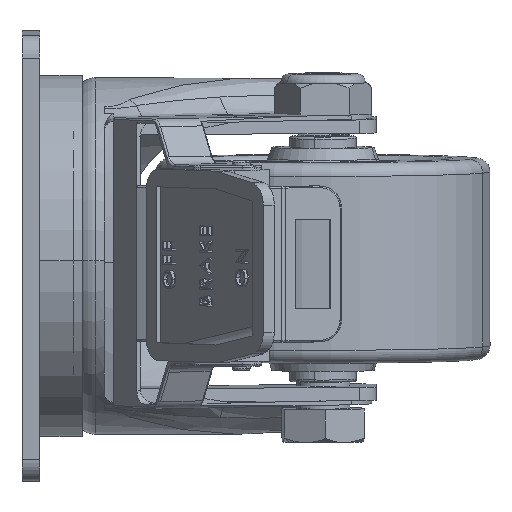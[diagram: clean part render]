
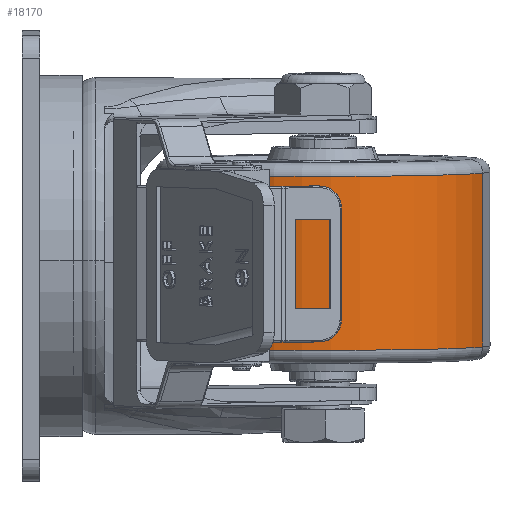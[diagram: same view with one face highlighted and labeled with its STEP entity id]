
A CAD part, left-side view. The second image highlights one B-rep face of the part: STEP entity #18170.
In plain terms, the highlighted cylindrical face has radius 37.5 mm (diameter 75 mm), a partial arc.
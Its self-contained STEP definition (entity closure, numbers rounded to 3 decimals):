
#1056 = CARTESIAN_POINT ( 'NONE',  ( 0., 19.5, 0. ) ) ;
#2727 = ORIENTED_EDGE ( 'NONE', *, *, #29543, .T. ) ;
#3796 = DIRECTION ( 'NONE',  ( 0., 0., -1. ) ) ;
#5359 = ORIENTED_EDGE ( 'NONE', *, *, #14769, .F. ) ;
#5555 = LINE ( 'NONE', #16527, #7661 ) ;
#6392 = VECTOR ( 'NONE', #27310, 1000. ) ;
#7661 = VECTOR ( 'NONE', #26841, 1000. ) ;
#12040 = VERTEX_POINT ( 'NONE', #19046 ) ;
#12487 = CYLINDRICAL_SURFACE ( 'NONE', #24746, 37.5 ) ;
#14769 = EDGE_CURVE ( 'NONE', #12040, #33325, #5555, .T. ) ;
#14953 = CARTESIAN_POINT ( 'NONE',  ( 0., 19.5, 37.5 ) ) ;
#15663 = VERTEX_POINT ( 'NONE', #14953 ) ;
#16140 = CARTESIAN_POINT ( 'NONE',  ( 0., -19.5, 37.5 ) ) ;
#16405 = CARTESIAN_POINT ( 'NONE',  ( 0., -19.5, -37.5 ) ) ;
#16527 = CARTESIAN_POINT ( 'NONE',  ( 0., 0., -37.5 ) ) ;
#17908 = CARTESIAN_POINT ( 'NONE',  ( 0., -19.5, 0. ) ) ;
#18170 = ADVANCED_FACE ( 'NONE', ( #25764 ), #12487, .T. ) ;
#18208 = EDGE_CURVE ( 'NONE', #18803, #33325, #31472, .T. ) ;
#18587 = DIRECTION ( 'NONE',  ( 0., 0., -1. ) ) ;
#18803 = VERTEX_POINT ( 'NONE', #16140 ) ;
#18855 = EDGE_LOOP ( 'NONE', ( #2727, #31983, #18976, #5359 ) ) ;
#18976 = ORIENTED_EDGE ( 'NONE', *, *, #18208, .T. ) ;
#19046 = CARTESIAN_POINT ( 'NONE',  ( 0., 19.5, -37.5 ) ) ;
#19100 = CARTESIAN_POINT ( 'NONE',  ( 0., 0., 37.5 ) ) ;
#19589 = AXIS2_PLACEMENT_3D ( 'NONE', #1056, #26109, #28388 ) ;
#24746 = AXIS2_PLACEMENT_3D ( 'NONE', #27719, #25242, #3796 ) ;
#25242 = DIRECTION ( 'NONE',  ( 0., -1., 0. ) ) ;
#25252 = EDGE_CURVE ( 'NONE', #15663, #18803, #33753, .T. ) ;
#25764 = FACE_OUTER_BOUND ( 'NONE', #18855, .T. ) ;
#26109 = DIRECTION ( 'NONE',  ( 0., -1., 0. ) ) ;
#26841 = DIRECTION ( 'NONE',  ( 0., -1., 0. ) ) ;
#27310 = DIRECTION ( 'NONE',  ( 0., -1., 0. ) ) ;
#27719 = CARTESIAN_POINT ( 'NONE',  ( 0., 0., 0. ) ) ;
#28388 = DIRECTION ( 'NONE',  ( 0., 0., 1. ) ) ;
#29543 = EDGE_CURVE ( 'NONE', #12040, #15663, #30215, .T. ) ;
#30215 = CIRCLE ( 'NONE', #19589, 37.5 ) ;
#31472 = CIRCLE ( 'NONE', #32016, 37.5 ) ;
#31983 = ORIENTED_EDGE ( 'NONE', *, *, #25252, .T. ) ;
#32016 = AXIS2_PLACEMENT_3D ( 'NONE', #17908, #34370, #18587 ) ;
#33325 = VERTEX_POINT ( 'NONE', #16405 ) ;
#33753 = LINE ( 'NONE', #19100, #6392 ) ;
#34370 = DIRECTION ( 'NONE',  ( 0., 1., 0. ) ) ;
